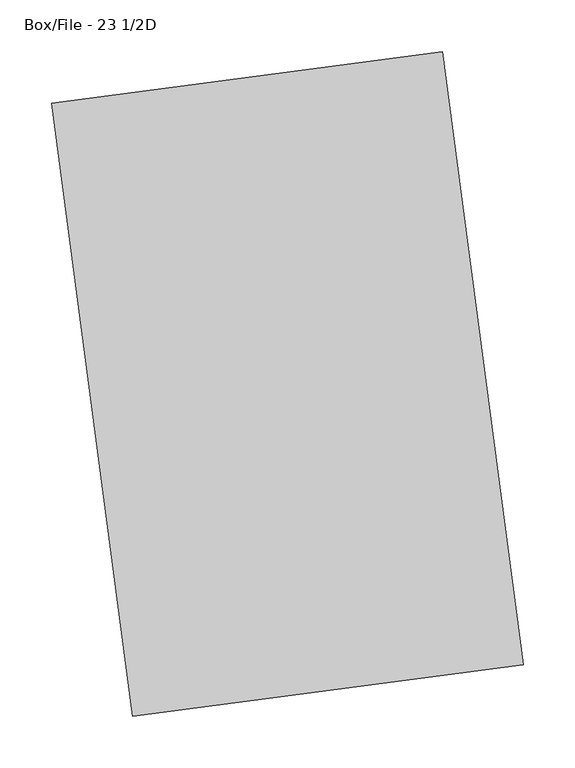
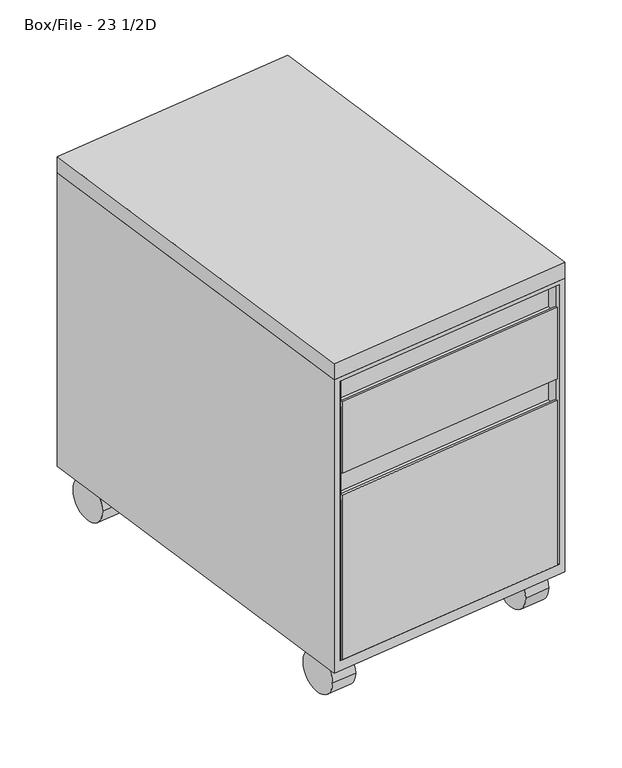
"""IFC4 building model written with IfcOpenShell, lengths in millimetres: furniture geometry, Steelcase - Universal Storage - Mobile Pedestal - Flush Steel : Box/File - 23 1/2D."""

from ifc_helpers import new_model, si_unit, point, frame, frame_2d, origin, place, context, project, spatial, polyline, circle_curve, trimmed, segment, composite_curve, outline, extrude, faceted_brep, source, transform, mapped, element, save


def box_file_23_1_2d_c740b5b8(model_context):
    return source(origin(), model_context, "Body", "SolidModel", [
        extrude(outline(polyline([(377.7311592, 49.8013183), (0.0, 0.0), (-78.0220654, 591.7788162), (299.7090938, 641.5801345), (377.7311592, 49.8013183)])), frame((0.0, 0.0, 533.4), z_axis=(0.0, 0.0, 1.0), x_axis=(1.0, 0.0, 0.0)), (0.0, 0.0, 1.0), 25.4),
        extrude(outline(composite_curve([segment(trimmed(circle_curve(frame_2d((0.0, -31.75)), 31.75), [point((0.0, -63.5))], [point((0.0, 0.0))], False, "CARTESIAN"), True, "CONTINUOUS"), segment(trimmed(circle_curve(frame_2d((0.0, -31.75)), 31.75), [point((0.0, 0.0))], [point((0.0, -63.5))], False, "CARTESIAN"), True, "CONTINUOUS")], self_intersect=False)), frame((252.7702674, 616.3034404, 31.75), z_axis=(0.9914203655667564, 0.13071212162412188, 0.0), x_axis=(0.0, 0.0, -1.0)), (0.0, 0.0, 1.0), 38.1),
        extrude(outline(composite_curve([segment(trimmed(circle_curve(frame_2d((0.0, -31.75)), 31.75), [point((0.0, -63.5))], [point((0.0, 0.0))], False, "CARTESIAN"), True, "CONTINUOUS"), segment(trimmed(circle_curve(frame_2d((0.0, -31.75)), 31.75), [point((0.0, 0.0))], [point((0.0, -63.5))], False, "CARTESIAN"), True, "CONTINUOUS")], self_intersect=False)), frame((-63.8843107, 574.3371216, 31.75), z_axis=(0.9914203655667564, 0.13071212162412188, 0.0), x_axis=(0.0, 0.0, -1.0)), (0.0, 0.0, 1.0), 38.1),
        extrude(outline(composite_curve([segment(trimmed(circle_curve(frame_2d((0.0, -31.75)), 31.75), [point((0.0, -63.5))], [point((0.0, 0.0))], False, "CARTESIAN"), True, "CONTINUOUS"), segment(trimmed(circle_curve(frame_2d((0.0, -31.75)), 31.75), [point((0.0, 0.0))], [point((0.0, -63.5))], False, "CARTESIAN"), True, "CONTINUOUS")], self_intersect=False)), frame((317.5119829, 125.2529213, 31.75), z_axis=(0.9914203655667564, 0.13071212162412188, 0.0), x_axis=(0.0, 0.0, -1.0)), (0.0, 0.0, 1.0), 38.1),
        extrude(outline(composite_curve([segment(trimmed(circle_curve(frame_2d((0.0, -31.75)), 31.75), [point((0.0, -63.5))], [point((0.0, 0.0))], False, "CARTESIAN"), True, "CONTINUOUS"), segment(trimmed(circle_curve(frame_2d((0.0, -31.75)), 31.75), [point((0.0, 0.0))], [point((0.0, -63.5))], False, "CARTESIAN"), True, "CONTINUOUS")], self_intersect=False)), frame((0.8565804, 83.5040316, 31.75), z_axis=(0.9914203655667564, 0.13071212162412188, 0.0), x_axis=(0.0, 0.0, -1.0)), (0.0, 0.0, 1.0), 38.1),
        extrude(outline(polyline([(364.8325558, 51.3029701), (12.2838426, 4.8217882), (10.2087876, 20.560587), (362.7575008, 67.0417688), (364.8325558, 51.3029701)])), frame((0.0, 0.0, 79.5439123), z_axis=(0.0, 0.0, 1.0), x_axis=(1.0, 0.0, 0.0)), (0.0, 0.0, 1.0), 254.000003),
        extrude(outline(polyline([(365.2474805, 48.1558644), (12.6987674, 1.6746826), (12.2838426, 4.8217882), (364.8325558, 51.3029701), (365.2474805, 48.1558644)])), frame((0.0, 0.0, 79.5439123), z_axis=(0.0, 0.0, 1.0), x_axis=(1.0, 0.0, 0.0)), (0.0, 0.0, 1.0), 263.524997),
        extrude(outline(polyline([(364.8325558, 51.3029701), (12.2838426, 4.8217882), (10.2087876, 20.560587), (362.7575008, 67.0417688), (364.8325558, 51.3029701)])), frame((0.0, 0.0, 377.8669214), z_axis=(0.0, 0.0, 1.0), x_axis=(1.0, 0.0, 0.0)), (0.0, 0.0, 1.0), 104.9019879),
        extrude(outline(polyline([(365.2475369, 48.1554365), (12.6988238, 1.6742547), (12.2838426, 4.8217882), (364.8325558, 51.3029701), (365.2475369, 48.1554365)])), frame((0.0, 0.0, 377.8669214), z_axis=(0.0, 0.0, 1.0), x_axis=(1.0, 0.0, 0.0)), (0.0, 0.0, 1.0), 114.3),
        faceted_brep([(299.7090938, 641.5801345, 533.4), (377.7311592, 49.8013183, 533.4), (377.7311592, 49.8013183, 63.5), (299.7090938, 641.5801345, 63.5), (-78.0220654, 591.7788162, 533.4), (-78.0220654, 591.7788162, 63.5), (0.0, 0.0, 63.5), (0.0, 0.0, 533.4), (368.3957391, 48.5705058, 527.05), (368.3957391, 48.5705058, 79.5439123), (9.5512903, 1.2592735, 79.5439123), (9.5512903, 1.2592735, 527.05), (12.2838426, 4.8217882, 527.05), (10.2087876, 20.560587, 527.05), (362.7567941, 67.0416757, 527.05), (364.8324685, 51.3036321, 527.05), (10.2087876, 20.560587, 79.5439123), (362.7567941, 67.0416757, 79.5439123), (12.2838426, 4.8217882, 79.5439123), (364.8324685, 51.3036321, 79.5439123)], [[[0, 1, 2, 3]], [[4, 5, 6, 7]], [[1, 0, 4, 7]], [[2, 1, 7, 6], [8, 9, 10, 11]], [[8, 11, 12, 13, 14, 15]], [[14, 13, 16, 17]], [[17, 16, 18, 10, 9, 19]], [[3, 2, 6, 5]], [[0, 3, 5, 4]], [[11, 10, 18, 12]], [[12, 18, 16, 13]], [[19, 15, 14, 17]], [[15, 19, 9, 8]]]),
    ])


if __name__ == "__main__":
    model = new_model("IFC4")
    model_context = context("Model", 3, world=origin())
    ifc_project = project(units=[si_unit("LENGTHUNIT", "METRE", prefix="MILLI")], contexts=[model_context])
    site = spatial("IfcSite", under=ifc_project)
    building = spatial("IfcBuilding", under=site)
    placement = place(None, origin())
    box_file_23_1_2d_shape = box_file_23_1_2d_c740b5b8(model_context)
    element("IfcFurniture", 1, ObjectType="Steelcase - Universal Storage - Mobile Pedestal - Flush Steel : Box/File - 23 1/2D", at=placement, inside=building, context=model_context, shape_type="MappedRepresentation", body=[
        mapped(box_file_23_1_2d_shape, transform((0.0, 0.0, 0.0), x_axis=(1.0, 0.0, 0.0), y_axis=(0.0, 1.0, 0.0), z_axis=(0.0, 0.0, 1.0))),
    ])
    save(model, "model.ifc")
